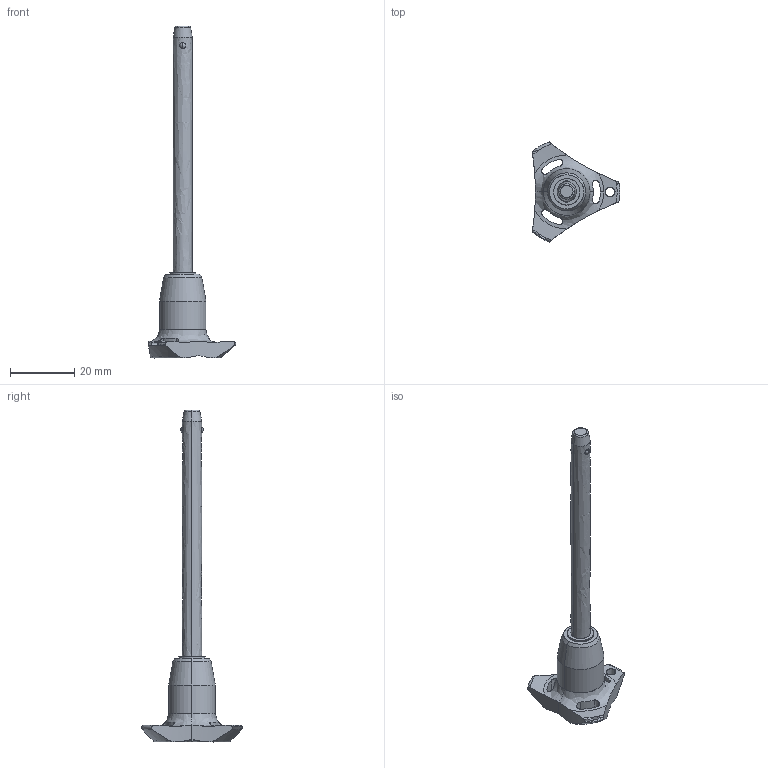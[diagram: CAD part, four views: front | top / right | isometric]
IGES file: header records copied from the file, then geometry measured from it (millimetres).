
Start section: SolidWorks IGES file using analytic representation for surfaces
Global section: file name: C:\Users\ianosborn\Desktop\QR1734_v2\QR1734_v2_20251113_IGES\QR1734.M06-070-S.igs; native system: SolidWorks 2019; preprocessor: SolidWorks 2019; author: IanOsborn; date: 251112.141211; units: millimetre
Bounding box: 27.4 x 31.31 x 103.7 mm (x, y, z)
Surface area: 3872.3 mm2 (no closed solid volume)
Topology: 0 solids, 0 shells, 66 faces, 1251 edges, 1232 vertices
Faces by surface type: revolution 50, bspline 16
